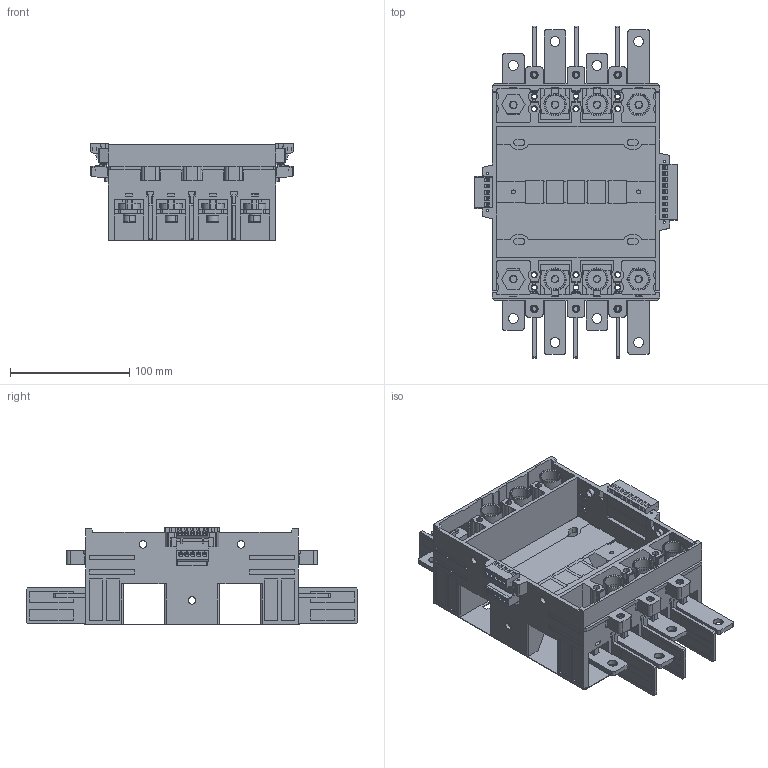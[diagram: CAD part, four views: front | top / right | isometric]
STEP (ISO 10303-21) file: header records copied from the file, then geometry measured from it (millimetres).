
FILE_DESCRIPTION (( 'STEP AP203' ), '1' );
FILE_NAME ('M5-250-4-P1FH.STEP', '2023-11-10T09:42:00', ( '' ), ( '' ), 'SwSTEP 2.0', 'SolidWorks 2018', '' );
FILE_SCHEMA (( 'CONFIG_CONTROL_DESIGN' ));
Products named in the file (1): M5-250-4-P1FH
Bounding box: 170.01 x 278 x 82 mm (x, y, z)
Surface area: 261021.3 mm2 (no closed solid volume)
Topology: 0 solids, 123 shells, 1496 faces, 6027 edges, 4558 vertices
Faces by surface type: plane 1058, cylinder 395, cone 27, torus 16
Entity records: 62358 total; most frequent: CARTESIAN_POINT 12097, DIRECTION 10357, ORIENTED_EDGE 9030, EDGE_CURVE 6024, VECTOR 4673, LINE 4673, VERTEX_POINT 4558, AXIS2_PLACEMENT_3D 2842
